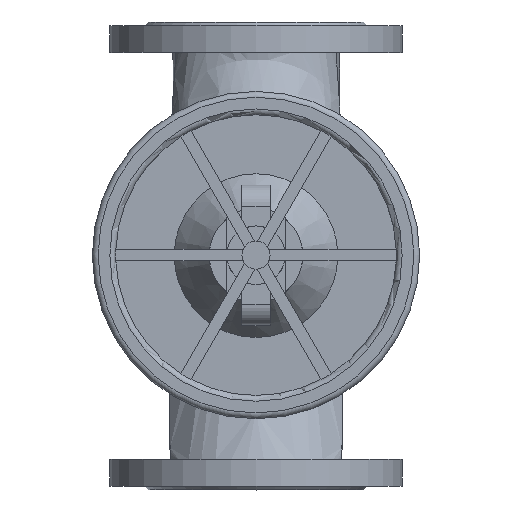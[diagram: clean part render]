
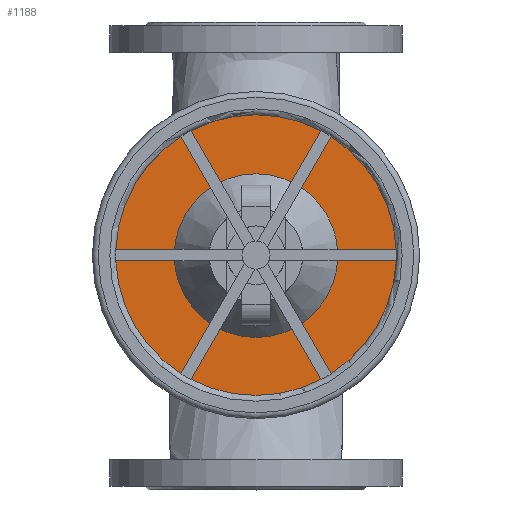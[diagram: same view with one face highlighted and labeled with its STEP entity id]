
A CAD part, top view. The second image highlights one B-rep face of the part: STEP entity #1188.
In plain terms, the highlighted planar face has unit normal (0, 0, 1).
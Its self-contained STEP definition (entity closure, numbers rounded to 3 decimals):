
#1188=ADVANCED_FACE('',(#11102,#11104),#11106,.T.);
#11102=FACE_BOUND('',#11103,.T.);
#11103=EDGE_LOOP('',(#17903));
#11104=FACE_BOUND('',#11105,.T.);
#11105=EDGE_LOOP('',(#17904));
#11106=PLANE('',#11107);
#11107=AXIS2_PLACEMENT_3D('',#11108,#11109,#11110);
#11108=CARTESIAN_POINT('',(0.,0.,183.));
#11109=DIRECTION('',(0.,0.,1.));
#11110=DIRECTION('',(0.,1.,0.));
#17903=ORIENTED_EDGE('',*,*,#18921,.F.);
#17904=ORIENTED_EDGE('',*,*,#18955,.T.);
#18921=EDGE_CURVE('',#19772,#19772,#19773,.T.);
#18955=EDGE_CURVE('',#19830,#19830,#19831,.T.);
#19772=VERTEX_POINT('',#24258);
#19773=CIRCLE('',#24259,125.);
#19830=VERTEX_POINT('',#25007);
#19831=CIRCLE('',#25008,70.);
#24258=CARTESIAN_POINT('',(0.,125.,183.));
#24259=AXIS2_PLACEMENT_3D('',#24260,#24261,#24262);
#24260=CARTESIAN_POINT('',(0.,0.,183.));
#24261=DIRECTION('',(0.,0.,-1.));
#24262=DIRECTION('',(0.,1.,0.));
#25007=CARTESIAN_POINT('',(0.,70.,183.));
#25008=AXIS2_PLACEMENT_3D('',#25009,#25010,#25011);
#25009=CARTESIAN_POINT('',(0.,0.,183.));
#25010=DIRECTION('',(0.,0.,-1.));
#25011=DIRECTION('',(0.,1.,0.));
